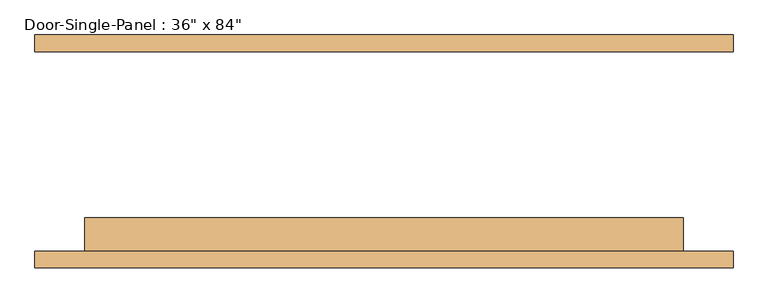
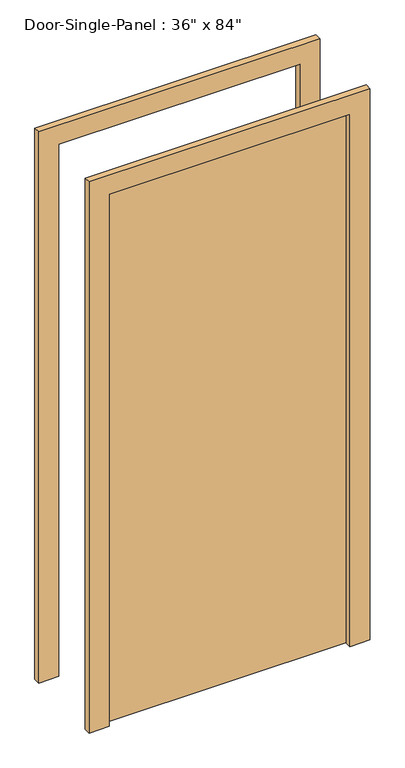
"""IFC4 building model written with IfcOpenShell, lengths in millimetres: door geometry."""

import ifcopenshell
import ifcopenshell.guid

model = None  # the IFC model being written
_history = None  # IfcOwnerHistory: only IFC2X3 demands one
_inside = {}  # id of a spatial element -> (the spatial element, [elements in it])
_under = {}  # id of a project, library or spatial element -> (it, [spatial elements below it])
_declared = {}  # id of a project -> (the project, [libraries it declares])
_typed = {}  # id of a type object -> (the type object, [elements of that type])
_made_of = {}  # id of a material, layer set ... -> (it, [elements and type objects made of it])


def new_model(schema):
    """Start an empty IFC model of exactly this schema.

    Asked for "IFC4X3", IfcOpenShell would pick the latest addendum, in which some entities
    have other attributes; the version numbers below select the first issue.
    IFC2X3 requires an IfcOwnerHistory on every rooted entity: one is made here for all.
    """
    global model, _history
    if schema == "IFC4X3":
        model = ifcopenshell.file(schema_version=(4, 3, 0, 0))
    else:
        model = ifcopenshell.file(schema=schema)
    _inside.clear()
    _under.clear()
    _declared.clear()
    _typed.clear()
    _made_of.clear()
    _history = None
    if model.schema == "IFC2X3":
        org = make("IfcOrganization", Name="unknown")
        user = make(
            "IfcPersonAndOrganization",
            ThePerson=make("IfcPerson", FamilyName="unknown"),
            TheOrganization=org,
        )
        app = make(
            "IfcApplication",
            ApplicationDeveloper=org,
            Version="unknown",
            ApplicationFullName="unknown",
            ApplicationIdentifier="unknown",
        )
        _history = make(
            "IfcOwnerHistory",
            OwningUser=user,
            OwningApplication=app,
            ChangeAction="ADDED",
            CreationDate=0,
        )
    return model


def make(cls, **values):
    """One entity of the class cls with the attributes given. An attribute that is None is left unset."""
    return model.create_entity(
        cls, **{name: value for name, value in values.items() if value is not None}
    )


def rooted(cls, **values):
    """An entity with a GlobalId (a new one), such as an element, a storey or a relation."""
    return make(cls, GlobalId=ifcopenshell.guid.new(), OwnerHistory=_history, **values)


def si_unit(unit_type, name, prefix=None):
    """IfcSIUnit, for example si_unit("LENGTHUNIT", "METRE", prefix="MILLI")."""
    return make("IfcSIUnit", UnitType=unit_type, Prefix=prefix, Name=name)


def assignment(units):
    """IfcUnitAssignment: the units of a project."""
    return None if units is None else make("IfcUnitAssignment", Units=units)


def point(xyz):
    """IfcCartesianPoint."""
    return None if xyz is None else make("IfcCartesianPoint", Coordinates=xyz)


def direction(xyz):
    """IfcDirection."""
    return None if xyz is None else make("IfcDirection", DirectionRatios=xyz)


def frame(location, z_axis=None, x_axis=None):
    """IfcAxis2Placement3D, a coordinate frame: its origin and axes. An axis left out is left unset."""
    return make(
        "IfcAxis2Placement3D",
        Location=point(location),
        Axis=direction(z_axis),
        RefDirection=direction(x_axis),
    )


def origin():
    """The frame at (0, 0, 0) with its axes left unset."""
    return frame((0.0, 0.0, 0.0))


def origin_with_axes():
    """The frame at (0, 0, 0) with the z axis (0, 0, 1) and the x axis (1, 0, 0) written out."""
    return frame((0.0, 0.0, 0.0), z_axis=(0.0, 0.0, 1.0), x_axis=(1.0, 0.0, 0.0))


def place(relative_to, where):
    """IfcLocalPlacement: puts the frame where relative to a parent placement (None: the world)."""
    return make(
        "IfcLocalPlacement", PlacementRelTo=relative_to, RelativePlacement=where
    )


def context(
    kind, dimensions, precision=None, world=None, true_north=None, identifier=None
):
    """IfcGeometricRepresentationContext, for example the 3D "Model" context."""
    return make(
        "IfcGeometricRepresentationContext",
        ContextIdentifier=identifier,
        ContextType=kind,
        CoordinateSpaceDimension=dimensions,
        Precision=precision,
        WorldCoordinateSystem=world,
        TrueNorth=true_north,
    )


def project(units=None, contexts=None):
    """IfcProject with its units and contexts."""
    return rooted(
        "IfcProject",
        Name="project",
        RepresentationContexts=contexts,
        UnitsInContext=assignment(units),
    )


def spatial(cls, under=None, at=None, **own):
    """A site, building, storey or space (cls), placed at a placement, below another one or the project."""
    s = rooted(cls, ObjectPlacement=at, **own)
    if under is not None:
        _under.setdefault(under.id(), (under, []))[1].append(s)
    return s


def polyline(points):
    """IfcPolyline through the points."""
    return make("IfcPolyline", Points=[point(p) for p in points])


def outline(outer, holes=None, kind="AREA"):
    """IfcArbitraryClosedProfileDef: a profile drawn as a closed curve; with holes, ...WithVoids."""
    if holes is None:
        return make("IfcArbitraryClosedProfileDef", ProfileType=kind, OuterCurve=outer)
    return make(
        "IfcArbitraryProfileDefWithVoids",
        ProfileType=kind,
        OuterCurve=outer,
        InnerCurves=holes,
    )


def extrude(swept, where, along, depth):
    """IfcExtrudedAreaSolid: the profile swept, set in the frame where, extruded along a direction by depth."""
    return make(
        "IfcExtrudedAreaSolid",
        SweptArea=swept,
        Position=where,
        ExtrudedDirection=direction(along),
        Depth=depth,
    )


def shape(context_of_items, identifier, shape_type, items):
    """IfcShapeRepresentation: the items that make up one representation, for example the "Body"."""
    return make(
        "IfcShapeRepresentation",
        ContextOfItems=context_of_items,
        RepresentationIdentifier=identifier,
        RepresentationType=shape_type,
        Items=items,
    )


def source(mapping_origin, context_of_items, identifier, shape_type, items):
    """IfcRepresentationMap: a shape defined once, which mapped items show again and again."""
    return make(
        "IfcRepresentationMap",
        MappingOrigin=mapping_origin,
        MappedRepresentation=shape(context_of_items, identifier, shape_type, items),
    )


def transform(
    local_origin,
    x_axis=None,
    y_axis=None,
    z_axis=None,
    scale=None,
    scale2=None,
    scale3=None,
    uniform=True,
):
    """IfcCartesianTransformationOperator3D, or its non-uniform kind. x_axis, y_axis, z_axis: its Axis1, 2, 3."""
    if uniform:
        return make(
            "IfcCartesianTransformationOperator3D",
            Axis1=direction(x_axis),
            Axis2=direction(y_axis),
            LocalOrigin=point(local_origin),
            Scale=scale,
            Axis3=direction(z_axis),
        )
    return make(
        "IfcCartesianTransformationOperator3DnonUniform",
        Axis1=direction(x_axis),
        Axis2=direction(y_axis),
        LocalOrigin=point(local_origin),
        Scale=scale,
        Axis3=direction(z_axis),
        Scale2=scale2,
        Scale3=scale3,
    )


def mapped(mapping_source, mapping_target):
    """IfcMappedItem: shows the shape of a source again, moved by a transform."""
    return make(
        "IfcMappedItem", MappingSource=mapping_source, MappingTarget=mapping_target
    )


def made_of(thing, what):
    """Note that an element or type object is made of a material, layer set ...; save() writes the relation."""
    if what is not None:
        _made_of.setdefault(what.id(), (what, []))[1].append(thing)
    return thing


def element(
    cls,
    number,
    at=None,
    inside=None,
    cuts=None,
    type_object=None,
    material=None,
    context=None,
    identifier="Body",
    shape_type=None,
    held_by="IfcProductDefinitionShape",
    body=None,
    shapes=None,
    **own,
):
    """One element of the class cls, such as IfcWall. Its Tag is "e" and its number.

    at: its placement. inside: the storey or other place that contains it. cuts: it is an
    opening in that element (IfcRelVoidsElement). A single representation is given by context,
    identifier, shape_type and body (its items); several are given by shapes. held_by: the class
    of the entity that holds the representations. save() writes the other relations.
    """
    e = rooted(cls, Tag="e%d" % number, ObjectPlacement=at, **own)
    if body is not None:
        shapes = [shape(context, identifier, shape_type, body)]
    if shapes is not None:
        e.Representation = make(held_by, Representations=shapes)
    if inside is not None:
        _inside.setdefault(inside.id(), (inside, []))[1].append(e)
    if cuts is not None:
        rooted(
            "IfcRelVoidsElement", RelatingBuildingElement=cuts, RelatedOpeningElement=e
        )
    if type_object is not None:
        _typed.setdefault(type_object.id(), (type_object, []))[1].append(e)
    return made_of(e, material)


def aggregate(whole, parts):
    """IfcRelAggregates: a whole, such as a stair, and the parts it consists of."""
    return rooted("IfcRelAggregates", RelatingObject=whole, RelatedObjects=parts)


def save(model, path):
    """Write the relations noted so far, then the file.

    IfcRelAggregates (storeys below a building ...), IfcRelContainedInSpatialStructure (elements
    in a storey), IfcRelDefinesByType, IfcRelAssociatesMaterial and IfcRelDeclares: one each for
    every whole, place, type object, material and project.
    """
    for whole, parts in _under.values():
        aggregate(whole, parts)
    for where, things in _inside.values():
        rooted(
            "IfcRelContainedInSpatialStructure",
            RelatedElements=things,
            RelatingStructure=where,
        )
    for kind, things in _typed.values():
        rooted("IfcRelDefinesByType", RelatedObjects=things, RelatingType=kind)
    for what, things in _made_of.values():
        rooted("IfcRelAssociatesMaterial", RelatedObjects=things, RelatingMaterial=what)
    for by, libraries in _declared.values():
        rooted("IfcRelDeclares", RelatingContext=by, RelatedDefinitions=libraries)
    model.write(path)


def door_0eca04c9(model_context):
    return source(origin(), model_context, "Body", "SweptSolid", [
        extrude(outline(polyline([(457.2, -101.6), (457.2, -152.4), (-457.2, -152.4), (-457.2, -101.6), (457.2, -101.6)])), origin_with_axes(), (0.0, 0.0, 1.0), 2133.6),
        extrude(outline(polyline([(2209.8, -533.4), (0.0, -533.4), (0.0, -457.2), (2133.6, -457.2), (2133.6, 457.2), (0.0, 457.2), (0.0, 533.4), (2209.8, 533.4), (2209.8, -533.4)])), frame((0.0, -177.8, 0.0), z_axis=(0.0, 1.0, 0.0), x_axis=(0.0, 0.0, 1.0)), (0.0, 0.0, 1.0), 25.4),
        extrude(outline(polyline([(2209.8, 533.4), (2209.8, -533.4), (0.0, -533.4), (0.0, -457.2), (2133.6, -457.2), (2133.6, 457.2), (0.0, 457.2), (0.0, 533.4), (2209.8, 533.4)])), frame((0.0, 152.4, 0.0), z_axis=(0.0, 1.0, 0.0), x_axis=(0.0, 0.0, 1.0)), (0.0, 0.0, 1.0), 25.4),
    ])


if __name__ == "__main__":
    model = new_model("IFC4")
    model_context = context("Model", 3, world=origin())
    ifc_project = project(units=[si_unit("LENGTHUNIT", "METRE", prefix="MILLI")], contexts=[model_context])
    site = spatial("IfcSite", under=ifc_project)
    building = spatial("IfcBuilding", under=site)
    placement = place(None, origin())
    door_shape = door_0eca04c9(model_context)
    element("IfcDoor", 1, ObjectType="Door-Single-Panel : 36\" x 84\"", at=placement, inside=building, context=model_context, shape_type="MappedRepresentation", body=[
        mapped(door_shape, transform((0.0, 0.0, 0.0), x_axis=(1.0, 0.0, 0.0), y_axis=(0.0, 1.0, 0.0), z_axis=(0.0, 0.0, 1.0))),
    ])
    save(model, "model.ifc")
